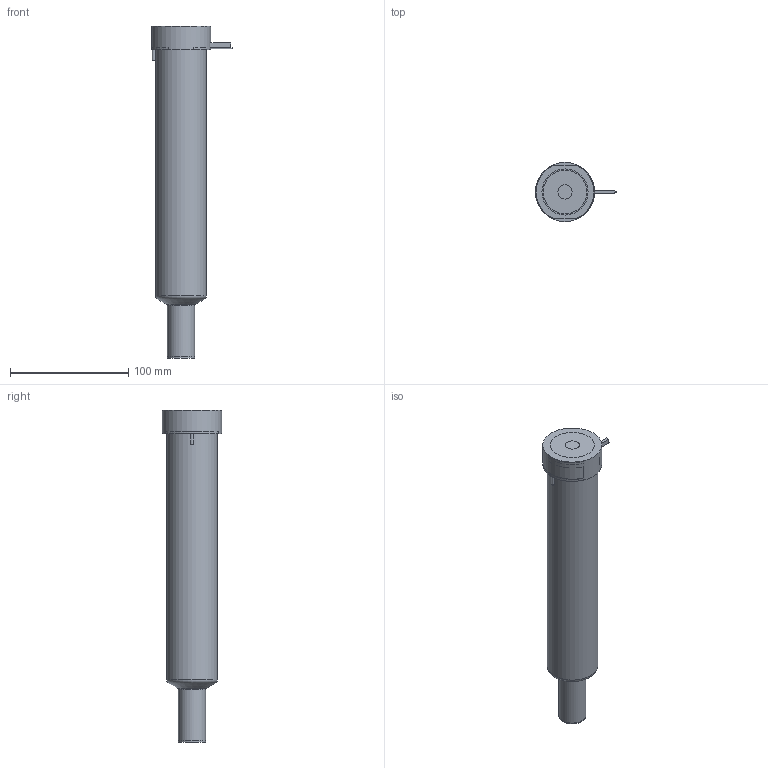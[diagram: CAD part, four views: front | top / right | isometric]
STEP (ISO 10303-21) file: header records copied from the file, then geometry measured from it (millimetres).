
FILE_DESCRIPTION(/* description */ (''),/* implementation_level */ '2;1');
FILE_NAME(/* name */ 'BXYCN27225P7U_250C_a',/* time_stamp */ '2016-02-22T16:33:53+13:00',/* author */ (''),/* organization */ (''),/* preprocessor_version */ 'ST-DEVELOPER v9',/* originating_system */ 'UGS - NX 4.0',/* authorisation */ '');
FILE_SCHEMA (('CONFIG_CONTROL_DESIGN'));
Length unit declared in the file: millimetre
Products named in the file (1): MattBE97x15q
Bounding box: 68.6 x 50 x 281.07 mm (x, y, z)
Volume: 658195.5 mm3; surface area: 76940.4 mm2
Topology: 2 solids, 2 shells, 66 faces, 149 edges, 97 vertices
Faces by surface type: plane 29, cylinder 21, torus 8, cone 6, bspline 1, sphere 1
Full cylindrical faces by diameter (mm): 1 x2, 2.2 x1, 2.5 x1, 12 x2, 22.61 x1, 22.995 x2, 27.5 x1, 38.1 x1, 43 x1, 50 x1
Entity records: 2056 total; most frequent: CARTESIAN_POINT 588, DIRECTION 299, ORIENTED_EDGE 242, AXIS2_PLACEMENT_3D 128, EDGE_CURVE 121, EDGE_LOOP 100, VERTEX_POINT 91, ADVANCED_FACE 66
